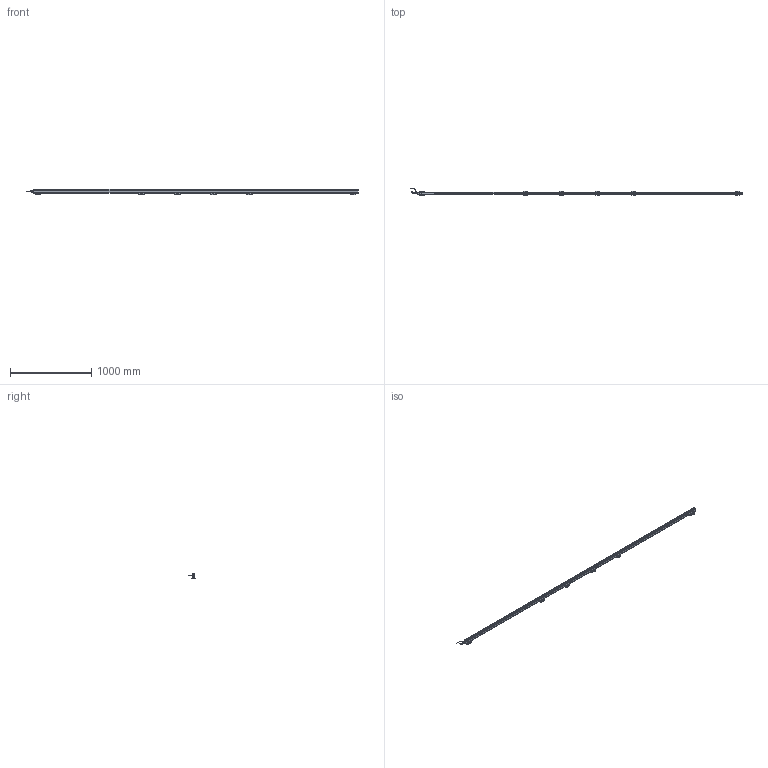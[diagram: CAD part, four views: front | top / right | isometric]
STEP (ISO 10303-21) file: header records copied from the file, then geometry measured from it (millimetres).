
FILE_DESCRIPTION(('Bauteilbeschreibung','HiCAD-Model','HiCAD-STEP-TRANSLATION','Bauteilbeschreibung'),'2;1');
FILE_NAME('PERFORMAXIQEASY_3930-4020_3D.STP','2014-03-05T13:31:21+00:00',('Konstrukteur'),('Konstrukteur Firma GmbH'),' HiCAD 2011, Step 1600.0 ','HiCAD 2011','confidential');
FILE_SCHEMA(('AUTOMOTIVE_DESIGN { 1 2 10303 214 0 1 1 1 }'));
Products named in the file (56): PERFORMAXIQEASY_3930_4020_3D; A_PERFORMAX IQ EASY 3930_4020; A_PERFORMAX IQ EASY SPEED; A_CAP DE; A_CAP CE_5; LED_2C_3MM; LED02C03MM; A519020315_CONNECTOR APPLIANCE; A_INSERT; A_CONTACTS; A_HOUSING; A_PROFILE; A_POTTING; PIN; PIN0; A532000100_BRACKET BARS_ MOUNT; A_SIDE PIECE; A0SIDE0PIECE; A_BRACKET SMALL; A_SLIDE PIECE; A5320001000BRACKET0BARS00MOUNT; A0SIDE0PIECE0; A0SIDE0PIECE1; A0BRACKET0SMALL; A0SLIDE0PIECE; A5320001000BRACKET0BARS00MOUNT0; A0SIDE0PIECE2; A0SIDE0PIECE3; A0BRACKET0SMALL0; A0SLIDE0PIECE0; A0SIDE0PIECE4; A0SIDE0PIECE5; A0BRACKET0SMALL1; A0SLIDE0PIECE1; A0SIDE0PIECE6; A0SIDE0PIECE7; A0BRACKET0SMALL2; A0SLIDE0PIECE2; A0SIDE0PIECE8; A0SIDE0PIECE9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
Assembly tree (55 placements, depth 5):
  PERFORMAXIQEASY_3930_4020_3D
    A_PERFORMAX IQ EASY 3930_4020
      A_PERFORMAX IQ EASY SPEED
        A_CAP DE
        A_CAP CE_5
        LED_2C_3MM
        LED02C03MM
        A519020315_CONNECTOR APPLIANCE
          A_INSERT
          A_CONTACTS
          A_HOUSING
        A_PROFILE
        A_POTTING
        PIN
        PIN0
      A532000100_BRACKET BARS_ MOUNT
        A_SIDE PIECE
        A0SIDE0PIECE
        A_BRACKET SMALL
        A_SLIDE PIECE
      A5320001000BRACKET0BARS00MOUNT
        A0SIDE0PIECE0
        A0SIDE0PIECE1
        A0BRACKET0SMALL
        A0SLIDE0PIECE
      A5320001000BRACKET0BARS00MOUNT0
        A0SIDE0PIECE2
        A0SIDE0PIECE3
        A0BRACKET0SMALL0
        A0SLIDE0PIECE0
      A5320001000BRACKET0BARS00MOUNT0
        A0SIDE0PIECE4
        A0SIDE0PIECE5
        A0BRACKET0SMALL1
        A0SLIDE0PIECE1
      A5320001000BRACKET0BARS00MOUNT0
        A0SIDE0PIECE6
        A0SIDE0PIECE7
        A0BRACKET0SMALL2
        A0SLIDE0PIECE2
      A5320001000BRACKET0BARS00MOUNT0
        A0SIDE0PIECE8
        A0SIDE0PIECE9
        A0BRACKET0SMALL3
        A0SLIDE0PIECE3
      A_CONNECTOR STRAIGHT
        EXTRUDED SOLID_0
        DRAAD GEBOGEN
        REVOLVED SOLID_1
        REVOLVED SOLID_3
      A_CONNECTOR ANGLED
        REVOLVED0SOLID01
        EXTRUDED0SOLID00
        C_EDGE SWEEP_0
        REVOLVED SOLID_2
        REVOLVED0SOLID03
Bounding box: 4097.89 x 84.16 x 63.13 mm (x, y, z)
Volume: 4141004.1 mm3; surface area: 1001719.9 mm2
Topology: 49 solids, 49 shells, 4983 faces, 12800 edges, 7585 vertices
Faces by surface type: cylinder 2137, plane 1879, sphere 332, torus 299, bspline 248, cone 88
Full cylindrical faces by diameter (mm): 0.8 x10, 1 x5, 2.387 x12, 3 x27, 3.1 x1, 4.2 x2, 5 x4, 5.5 x30, 8 x2, 8.2 x1, 8.4 x2, 8.945 x1, 9 x2, 10.2 x1, 10.5 x3, 11 x1, 12 x3, 12.8 x1, 13.8 x4, 14.5 x3
Entity records: 231105 total; most frequent: CARTESIAN_POINT 54548, DIRECTION 24777, ORIENTED_EDGE 24320, EDGE_CURVE 12160, COLOUR_RGB 11541, PRESENTATION_STYLE_ASSIGNMENT 11541, OVER_RIDING_STYLED_ITEM 11497, CURVE_STYLE 11492
